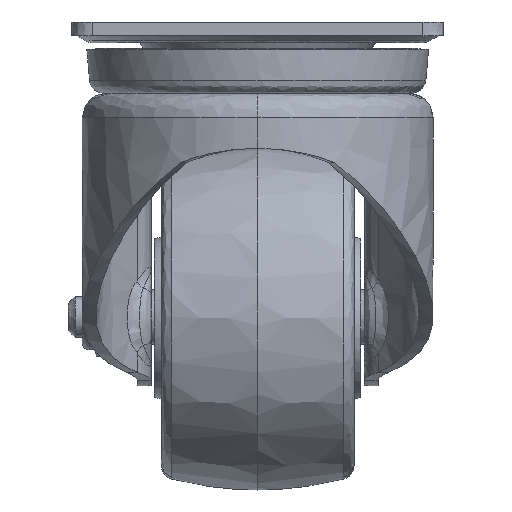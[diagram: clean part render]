
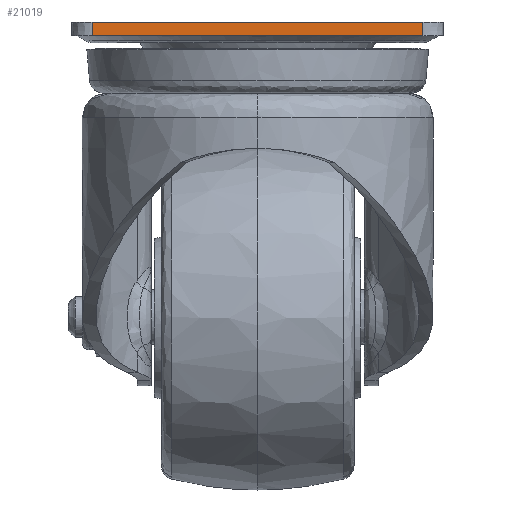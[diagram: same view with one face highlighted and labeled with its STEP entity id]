
A CAD part, left-side view. The second image highlights one B-rep face of the part: STEP entity #21019.
In plain terms, the highlighted planar face has unit normal (-1, 0, 0).
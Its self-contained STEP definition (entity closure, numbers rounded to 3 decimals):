
#11689 = CARTESIAN_POINT ( 'NONE',  ( -35., 24., -2. ) ) ;
#11691 = CARTESIAN_POINT ( 'NONE',  ( -35., -24., -2. ) ) ;
#11692 = CARTESIAN_POINT ( 'NONE',  ( -35., 24., 0. ) ) ;
#11695 = CARTESIAN_POINT ( 'NONE',  ( -35., -24., 0. ) ) ;
#13331 = LINE ( 'NONE', #44931, #45968 ) ;
#20105 = CARTESIAN_POINT ( 'NONE',  ( -35., 24., 0. ) ) ;
#20373 = PLANE ( 'NONE',  #50941 ) ;
#20375 = DIRECTION ( 'NONE',  ( 1., 0., 0. ) ) ;
#20376 = DIRECTION ( 'NONE',  ( 0., -1., 0. ) ) ;
#20903 = EDGE_LOOP ( 'NONE', ( #55587, #55588, #55589, #55590 ) ) ;
#21019 = ADVANCED_FACE ( 'NONE', ( #55471 ), #20373, .F. ) ;
#29602 = VERTEX_POINT ( 'NONE', #11689 ) ;
#29606 = VERTEX_POINT ( 'NONE', #11691 ) ;
#29608 = VERTEX_POINT ( 'NONE', #11692 ) ;
#29614 = VERTEX_POINT ( 'NONE', #11695 ) ;
#44931 = CARTESIAN_POINT ( 'NONE',  ( -35., -32.4, -2. ) ) ;
#44932 = DIRECTION ( 'NONE',  ( 0., 1., 0. ) ) ;
#44970 = CARTESIAN_POINT ( 'NONE',  ( -35., -32.4, 0. ) ) ;
#44971 = CARTESIAN_POINT ( 'NONE',  ( -35., 24., -1. ) ) ;
#44972 = DIRECTION ( 'NONE',  ( 0., 0., -1. ) ) ;
#44973 = CARTESIAN_POINT ( 'NONE',  ( -35., -24., -1. ) ) ;
#44974 = DIRECTION ( 'NONE',  ( 0., -1., 0. ) ) ;
#44975 = DIRECTION ( 'NONE',  ( 0., 0., 1. ) ) ;
#45968 = VECTOR ( 'NONE', #44932, 1000. ) ;
#45977 = VECTOR ( 'NONE', #44972, 1000. ) ;
#45981 = LINE ( 'NONE', #44971, #45977 ) ;
#45983 = LINE ( 'NONE', #44973, #45994 ) ;
#45986 = LINE ( 'NONE', #44970, #45989 ) ;
#45989 = VECTOR ( 'NONE', #44974, 1000. ) ;
#45994 = VECTOR ( 'NONE', #44975, 1000. ) ;
#50941 = AXIS2_PLACEMENT_3D ( 'NONE', #20105, #20375, #20376 ) ;
#54591 = EDGE_CURVE ( 'NONE', #29606, #29602, #13331, .T. ) ;
#54597 = EDGE_CURVE ( 'NONE', #29608, #29602, #45981, .T. ) ;
#54598 = EDGE_CURVE ( 'NONE', #29608, #29614, #45986, .T. ) ;
#54599 = EDGE_CURVE ( 'NONE', #29606, #29614, #45983, .T. ) ;
#55471 = FACE_OUTER_BOUND ( 'NONE', #20903, .T. ) ;
#55587 = ORIENTED_EDGE ( 'NONE', *, *, #54598, .F. ) ;
#55588 = ORIENTED_EDGE ( 'NONE', *, *, #54597, .T. ) ;
#55589 = ORIENTED_EDGE ( 'NONE', *, *, #54591, .F. ) ;
#55590 = ORIENTED_EDGE ( 'NONE', *, *, #54599, .T. ) ;
